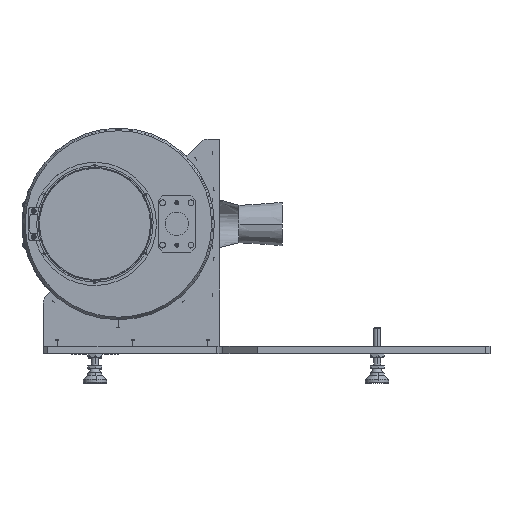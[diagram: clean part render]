
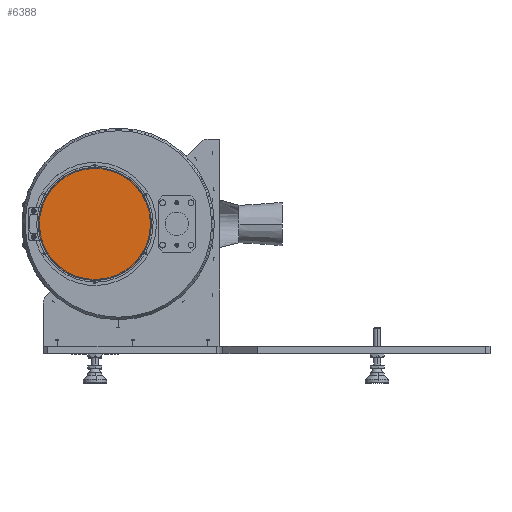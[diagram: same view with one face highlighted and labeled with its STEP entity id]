
A CAD part, top view. The second image highlights one B-rep face of the part: STEP entity #6388.
In plain terms, the highlighted planar face has unit normal (0, 0, 1).
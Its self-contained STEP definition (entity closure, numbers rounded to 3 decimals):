
#3507 = CARTESIAN_POINT ( 'NONE',  ( -1.317, -2.999, 0. ) ) ;
#6388 = ADVANCED_FACE ( 'NONE', ( #89646 ), #141016, .F. ) ;
#10455 = DIRECTION ( 'NONE',  ( 0., 0., -1. ) ) ;
#23535 = ORIENTED_EDGE ( 'NONE', *, *, #34412, .F. ) ;
#24644 =( BOUNDED_CURVE ( )  B_SPLINE_CURVE ( 3, ( #25024, #112245, #68874, #3507 ),
 .UNSPECIFIED., .F., .F. ) 
 B_SPLINE_CURVE_WITH_KNOTS ( ( 4, 4 ),
 ( 0.253, 0.753 ),
 .UNSPECIFIED. ) 
 CURVE ( )  GEOMETRIC_REPRESENTATION_ITEM ( )  RATIONAL_B_SPLINE_CURVE ( ( 1., 0.333, 0.333, 1. ) ) 
 REPRESENTATION_ITEM ( '' )  );
#25024 = CARTESIAN_POINT ( 'NONE',  ( -1.183, 2.999, 0. ) ) ;
#26253 = CARTESIAN_POINT ( 'NONE',  ( -7.316, -2.865, 0. ) ) ;
#34412 = EDGE_CURVE ( 'NONE', #98383, #70088, #24644, .T. ) ;
#59147 = CARTESIAN_POINT ( 'NONE',  ( -1.183, 2.999, 0. ) ) ;
#68874 = CARTESIAN_POINT ( 'NONE',  ( 4.681, -3.134, 0. ) ) ;
#68886 = CARTESIAN_POINT ( 'NONE',  ( -1.317, -2.999, 0. ) ) ;
#69824 = ORIENTED_EDGE ( 'NONE', *, *, #97016, .F. ) ;
#70088 = VERTEX_POINT ( 'NONE', #68886 ) ;
#81236 = EDGE_LOOP ( 'NONE', ( #23535, #69824 ) ) ;
#84697 =( BOUNDED_CURVE ( )  B_SPLINE_CURVE ( 3, ( #112067, #26253, #124397, #59147 ),
 .UNSPECIFIED., .F., .F. ) 
 B_SPLINE_CURVE_WITH_KNOTS ( ( 4, 4 ),
 ( 0.753, 1.253 ),
 .UNSPECIFIED. ) 
 CURVE ( )  GEOMETRIC_REPRESENTATION_ITEM ( )  RATIONAL_B_SPLINE_CURVE ( ( 1., 0.333, 0.333, 1. ) ) 
 REPRESENTATION_ITEM ( '' )  );
#86800 = DIRECTION ( 'NONE',  ( -1., 0., 0. ) ) ;
#89646 = FACE_OUTER_BOUND ( 'NONE', #81236, .T. ) ;
#97016 = EDGE_CURVE ( 'NONE', #70088, #98383, #84697, .T. ) ;
#98383 = VERTEX_POINT ( 'NONE', #120596 ) ;
#111958 = AXIS2_PLACEMENT_3D ( 'NONE', #118265, #10455, #86800 ) ;
#112067 = CARTESIAN_POINT ( 'NONE',  ( -1.317, -2.999, 0. ) ) ;
#112245 = CARTESIAN_POINT ( 'NONE',  ( 4.816, 2.865, 0. ) ) ;
#118265 = CARTESIAN_POINT ( 'NONE',  ( -1.25, 0., 0. ) ) ;
#120596 = CARTESIAN_POINT ( 'NONE',  ( -1.183, 2.999, 0. ) ) ;
#124397 = CARTESIAN_POINT ( 'NONE',  ( -7.181, 3.134, 0. ) ) ;
#141016 = PLANE ( 'NONE',  #111958 ) ;
